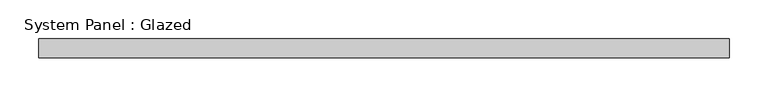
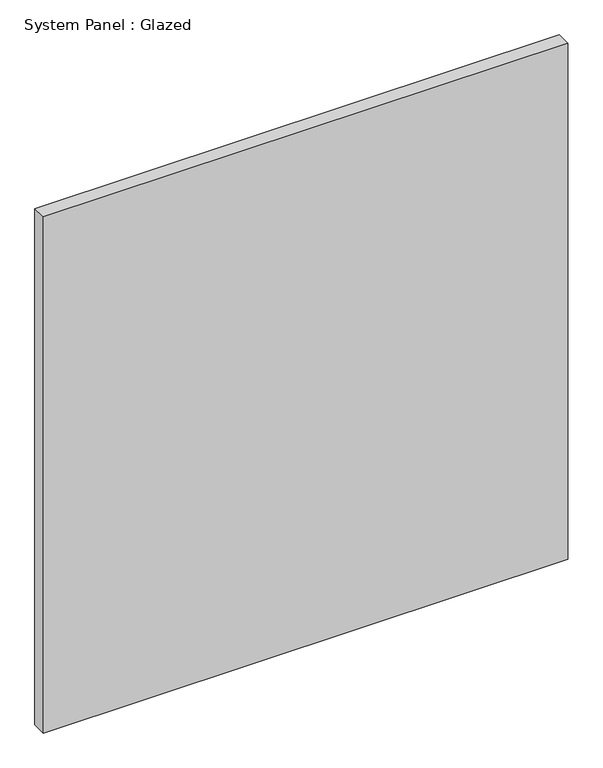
"""IFC4 building model written with IfcOpenShell, lengths in millimetres: plate geometry, System Panel : Glazed."""

from ifc_helpers import new_model, si_unit, origin, origin_with_axes, place, context, project, spatial, polyline, outline, extrude, source, transform, mapped, element, save


def system_panel_glazed_a9205bdd(model_context):
    return source(origin(), model_context, "Body", "SweptSolid", [
        extrude(outline(polyline([(447.4999992, -72.5), (-447.4999992, -72.5), (-447.4999992, -47.5), (447.4999992, -47.5), (447.4999992, -72.5)])), origin_with_axes(), (0.0, 0.0, 1.0), 931.25),
    ])


if __name__ == "__main__":
    model = new_model("IFC4")
    model_context = context("Model", 3, world=origin())
    ifc_project = project(units=[si_unit("LENGTHUNIT", "METRE", prefix="MILLI")], contexts=[model_context])
    site = spatial("IfcSite", under=ifc_project)
    building = spatial("IfcBuilding", under=site)
    placement = place(None, origin())
    system_panel_glazed_shape = system_panel_glazed_a9205bdd(model_context)
    element("IfcPlate", 1, ObjectType="System Panel : Glazed", at=placement, inside=building, context=model_context, shape_type="MappedRepresentation", body=[
        mapped(system_panel_glazed_shape, transform((0.0, 0.0, 0.0), x_axis=(1.0, 0.0, 0.0), y_axis=(0.0, 1.0, 0.0), z_axis=(0.0, 0.0, 1.0))),
    ])
    save(model, "model.ifc")
